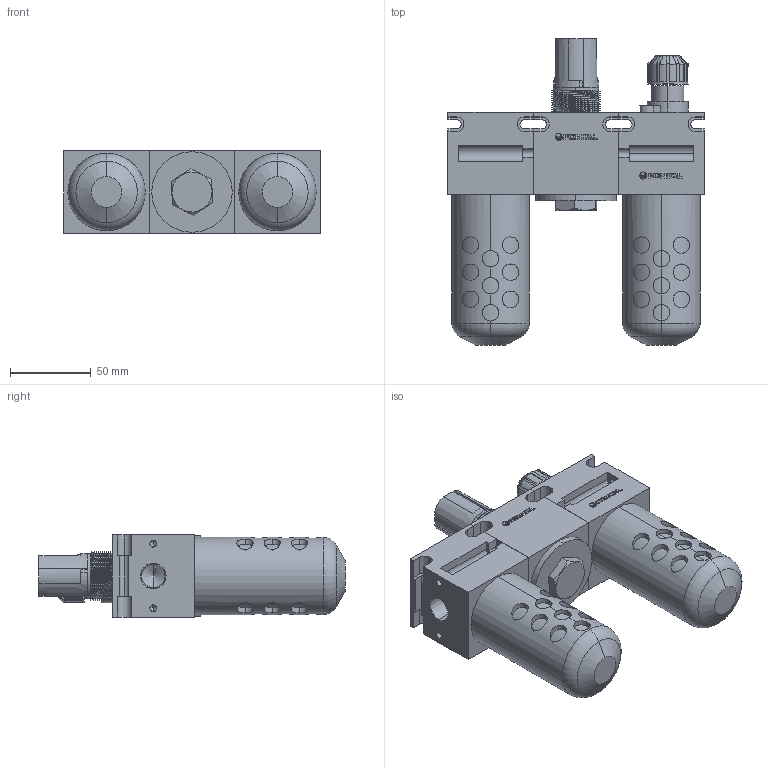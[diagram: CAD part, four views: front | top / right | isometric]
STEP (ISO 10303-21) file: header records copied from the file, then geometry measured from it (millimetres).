
FILE_DESCRIPTION (( 'STEP AP203' ), '1' );
FILE_NAME ('C55##-03#Y##.STEP', '2016-02-03T08:35:23', ( '' ), ( '' ), 'SwSTEP 2.0', 'SolidWorks 2014', '' );
FILE_SCHEMA (( 'CONFIG_CONTROL_DESIGN' ));
Length unit declared in the file: millimetre
Products named in the file (15): R364-5; R45-3; L55-03#; F55-2; C55##-03#Y##; L508-5; L45-2; F45-MARK; L45-1; R55-2; F55=03; F55-03; R364-4; R55-03; R55#-03##
Assembly tree (16 placements, depth 4):
  C55##-03#Y##
    F55=03
      F55-03
      F55-2
      F45-MARK
    R55#-03##
      R55-03
      R55-2
      R45-3
      R364-4
      R364-5
      F45-MARK
    L55-03#
      F55=03
        F55-03
        F55-2
        F45-MARK
      L45-2
      L508-5
      L45-1
Bounding box: 159 x 190 x 51.25 mm (x, y, z)
Volume: 720445.6 mm3; surface area: 118783.6 mm2
Topology: 33 solids, 33 shells, 837 faces, 2162 edges, 1416 vertices
Faces by surface type: plane 444, cylinder 304, cone 55, bspline 30, torus 4
Entity records: 21435 total; most frequent: CARTESIAN_POINT 7515, ORIENTED_EDGE 2634, DIRECTION 2428, EDGE_CURVE 1317, VERTEX_POINT 868, VECTOR 816, LINE 816, AXIS2_PLACEMENT_3D 806
